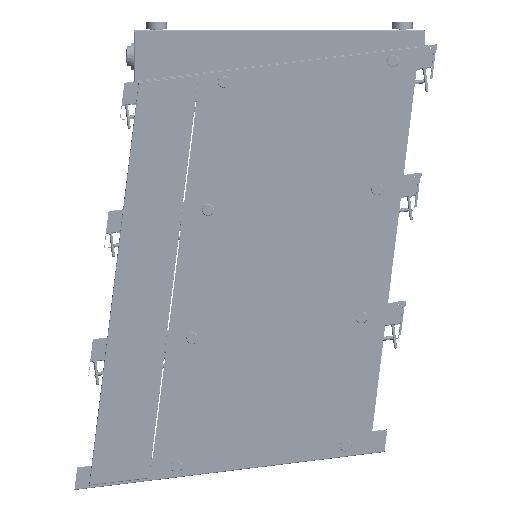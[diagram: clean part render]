
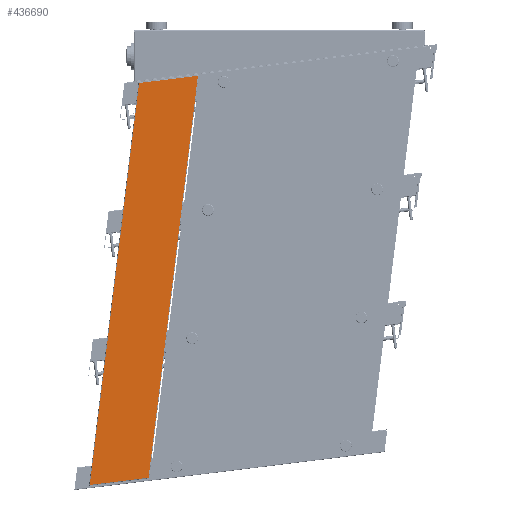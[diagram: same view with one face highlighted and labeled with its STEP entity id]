
A CAD part, left-side view. The second image highlights one B-rep face of the part: STEP entity #436690.
In plain terms, the highlighted planar face has unit normal (-1, 0, 0).
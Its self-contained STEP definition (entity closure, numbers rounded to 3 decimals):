
#3513 = ORIENTED_EDGE ( 'NONE', *, *, #284211, .F. ) ;
#12340 = VERTEX_POINT ( 'NONE', #375558 ) ;
#27794 = DIRECTION ( 'NONE',  ( 0., 0.122, -0.993 ) ) ;
#28606 = CARTESIAN_POINT ( 'NONE',  ( -400.1, 89.784, -873.007 ) ) ;
#38694 = DIRECTION ( 'NONE',  ( 0., 0.122, 0.993 ) ) ;
#44254 = VECTOR ( 'NONE', #27794, 1000. ) ;
#52738 = CARTESIAN_POINT ( 'NONE',  ( -400.1, -130.274, -40.382 ) ) ;
#80307 = ORIENTED_EDGE ( 'NONE', *, *, #324010, .T. ) ;
#96356 = VERTEX_POINT ( 'NONE', #52738 ) ;
#121006 = LINE ( 'NONE', #534177, #175053 ) ;
#136916 = CARTESIAN_POINT ( 'NONE',  ( -400.1, -10.646, -55.07 ) ) ;
#148090 = CARTESIAN_POINT ( 'NONE',  ( -400.1, -130.274, -40.382 ) ) ;
#150918 = VERTEX_POINT ( 'NONE', #136916 ) ;
#153436 = VECTOR ( 'NONE', #188839, 1000. ) ;
#156106 = LINE ( 'NONE', #148090, #153436 ) ;
#157679 = ORIENTED_EDGE ( 'NONE', *, *, #303298, .F. ) ;
#175053 = VECTOR ( 'NONE', #248655, 1000. ) ;
#188839 = DIRECTION ( 'NONE',  ( 0., 0.993, -0.122 ) ) ;
#219619 = EDGE_CURVE ( 'NONE', #96356, #150918, #156106, .T. ) ;
#248655 = DIRECTION ( 'NONE',  ( 0., -0.993, 0.122 ) ) ;
#270942 = VECTOR ( 'NONE', #395542, 1000. ) ;
#275890 = LINE ( 'NONE', #28606, #270942 ) ;
#284211 = EDGE_CURVE ( 'NONE', #12340, #150918, #275890, .T. ) ;
#291361 = DIRECTION ( 'NONE',  ( 1., 0., 0. ) ) ;
#303298 = EDGE_CURVE ( 'NONE', #96356, #340771, #402746, .T. ) ;
#311920 = CARTESIAN_POINT ( 'NONE',  ( -400.1, -29.845, -858.318 ) ) ;
#321215 = CARTESIAN_POINT ( 'NONE',  ( -400.1, -130.274, -40.382 ) ) ;
#324010 = EDGE_CURVE ( 'NONE', #12340, #340771, #121006, .T. ) ;
#340771 = VERTEX_POINT ( 'NONE', #311920 ) ;
#375558 = CARTESIAN_POINT ( 'NONE',  ( -400.1, 89.784, -873.007 ) ) ;
#378895 = AXIS2_PLACEMENT_3D ( 'NONE', #533421, #291361, #38694 ) ;
#395542 = DIRECTION ( 'NONE',  ( 0., -0.122, 0.993 ) ) ;
#402746 = LINE ( 'NONE', #321215, #44254 ) ;
#436690 = ADVANCED_FACE ( 'NONE', ( #459880 ), #451816, .F. ) ;
#442649 = ORIENTED_EDGE ( 'NONE', *, *, #219619, .T. ) ;
#451816 = PLANE ( 'NONE',  #378895 ) ;
#459880 = FACE_OUTER_BOUND ( 'NONE', #477029, .T. ) ;
#477029 = EDGE_LOOP ( 'NONE', ( #3513, #80307, #157679, #442649 ) ) ;
#533421 = CARTESIAN_POINT ( 'NONE',  ( -400.1, -70.611, -46.499 ) ) ;
#534177 = CARTESIAN_POINT ( 'NONE',  ( -400.1, 89.784, -873.007 ) ) ;
